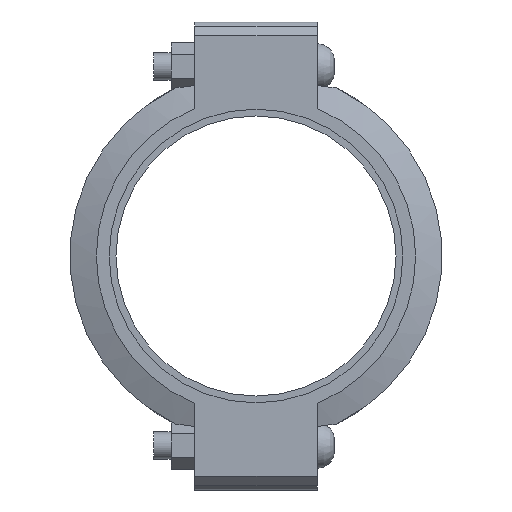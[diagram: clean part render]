
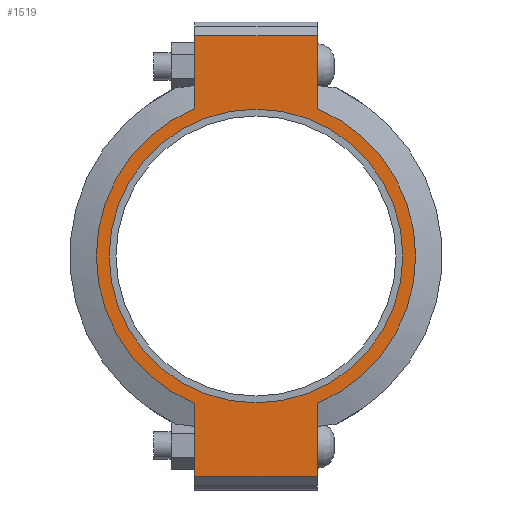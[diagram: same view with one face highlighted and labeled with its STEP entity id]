
A CAD part, left-side view. The second image highlights one B-rep face of the part: STEP entity #1519.
In plain terms, the highlighted planar face has unit normal (-1, 0, 0) as drawn and (0, 0, 1) by its records, which use the part's own axes.
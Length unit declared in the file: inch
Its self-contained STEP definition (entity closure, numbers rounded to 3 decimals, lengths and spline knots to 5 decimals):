
#146=LINE('',#2589,#233);
#157=LINE('',#2640,#244);
#163=LINE('',#2666,#250);
#165=LINE('',#2669,#252);
#166=LINE('',#2674,#253);
#167=LINE('',#2675,#254);
#233=VECTOR('',#2095,0.3937);
#244=VECTOR('',#2126,0.3937);
#250=VECTOR('',#2144,0.3937);
#252=VECTOR('',#2148,0.3937);
#253=VECTOR('',#2153,0.3937);
#254=VECTOR('',#2154,0.3937);
#312=FACE_BOUND('',#471,.T.);
#372=FACE_OUTER_BOUND('',#470,.T.);
#470=EDGE_LOOP('',(#1208,#1209,#1210,#1211,#1212,#1213,#1214,#1215));
#471=EDGE_LOOP('',(#1216));
#576=CIRCLE('',#1764,5.845);
#577=CIRCLE('',#1765,5.845);
#578=CIRCLE('',#1766,5.375);
#685=VERTEX_POINT('',#2586);
#686=VERTEX_POINT('',#2588);
#703=VERTEX_POINT('',#2635);
#704=VERTEX_POINT('',#2639);
#711=VERTEX_POINT('',#2661);
#712=VERTEX_POINT('',#2665);
#713=VERTEX_POINT('',#2671);
#714=VERTEX_POINT('',#2673);
#715=VERTEX_POINT('',#2677);
#855=EDGE_CURVE('',#686,#685,#146,.T.);
#876=EDGE_CURVE('',#704,#703,#157,.T.);
#887=EDGE_CURVE('',#712,#711,#163,.T.);
#889=EDGE_CURVE('',#712,#685,#165,.T.);
#890=EDGE_CURVE('',#711,#713,#576,.T.);
#891=EDGE_CURVE('',#713,#714,#166,.T.);
#892=EDGE_CURVE('',#704,#714,#167,.T.);
#893=EDGE_CURVE('',#703,#686,#577,.T.);
#894=EDGE_CURVE('',#715,#715,#578,.T.);
#1208=ORIENTED_EDGE('',*,*,#889,.F.);
#1209=ORIENTED_EDGE('',*,*,#887,.T.);
#1210=ORIENTED_EDGE('',*,*,#890,.T.);
#1211=ORIENTED_EDGE('',*,*,#891,.T.);
#1212=ORIENTED_EDGE('',*,*,#892,.F.);
#1213=ORIENTED_EDGE('',*,*,#876,.T.);
#1214=ORIENTED_EDGE('',*,*,#893,.T.);
#1215=ORIENTED_EDGE('',*,*,#855,.T.);
#1216=ORIENTED_EDGE('',*,*,#894,.T.);
#1371=PLANE('',#1763);
#1519=ADVANCED_FACE('',(#372,#312),#1371,.T.);
#1763=AXIS2_PLACEMENT_3D('',#2670,#2149,#2150);
#1764=AXIS2_PLACEMENT_3D('',#2672,#2151,#2152);
#1765=AXIS2_PLACEMENT_3D('',#2676,#2155,#2156);
#1766=AXIS2_PLACEMENT_3D('',#2678,#2157,#2158);
#2095=DIRECTION('',(-1.,0.,0.));
#2126=DIRECTION('',(-1.,0.,0.));
#2144=DIRECTION('',(1.,0.,0.));
#2148=DIRECTION('',(0.,1.,0.));
#2149=DIRECTION('center_axis',(0.,0.,1.));
#2150=DIRECTION('ref_axis',(1.,0.,0.));
#2151=DIRECTION('center_axis',(0.,0.,1.));
#2152=DIRECTION('ref_axis',(-1.,0.,0.));
#2153=DIRECTION('',(1.,0.,0.));
#2154=DIRECTION('',(0.,-1.,0.));
#2155=DIRECTION('center_axis',(0.,0.,1.));
#2156=DIRECTION('ref_axis',(-1.,0.,0.));
#2157=DIRECTION('center_axis',(0.,0.,-1.));
#2158=DIRECTION('ref_axis',(-1.,0.,0.));
#2586=CARTESIAN_POINT('',(-8.065,2.25,1.315));
#2588=CARTESIAN_POINT('',(-5.39458,2.25,1.315));
#2589=CARTESIAN_POINT('',(8.565,2.25,1.315));
#2635=CARTESIAN_POINT('',(5.39458,2.25,1.315));
#2639=CARTESIAN_POINT('',(8.065,2.25,1.315));
#2640=CARTESIAN_POINT('',(8.565,2.25,1.315));
#2661=CARTESIAN_POINT('',(-5.39458,-2.25,1.315));
#2665=CARTESIAN_POINT('',(-8.065,-2.25,1.315));
#2666=CARTESIAN_POINT('',(-8.565,-2.25,1.315));
#2669=CARTESIAN_POINT('',(-8.065,1.125,1.315));
#2670=CARTESIAN_POINT('Origin',(0.,0.,
1.315));
#2671=CARTESIAN_POINT('',(5.39458,-2.25,1.315));
#2672=CARTESIAN_POINT('Origin',(0.,0.,1.315));
#2673=CARTESIAN_POINT('',(8.065,-2.25,1.315));
#2674=CARTESIAN_POINT('',(-8.565,-2.25,1.315));
#2675=CARTESIAN_POINT('',(8.065,-1.125,1.315));
#2676=CARTESIAN_POINT('Origin',(0.,0.,1.315));
#2677=CARTESIAN_POINT('',(5.375,0.,1.315));
#2678=CARTESIAN_POINT('Origin',(0.,0.,1.315));
